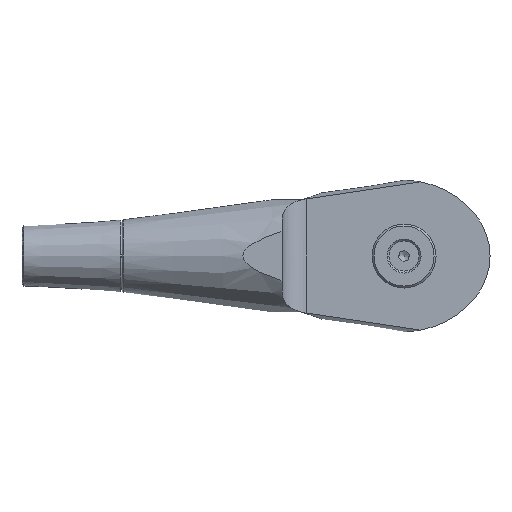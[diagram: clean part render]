
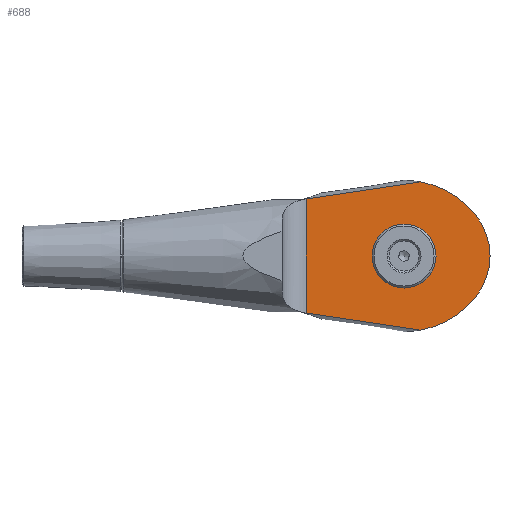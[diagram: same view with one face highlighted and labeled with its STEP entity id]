
A CAD part, front view. The second image highlights one B-rep face of the part: STEP entity #688.
In plain terms, the highlighted planar face has unit normal (0, -1, 0).
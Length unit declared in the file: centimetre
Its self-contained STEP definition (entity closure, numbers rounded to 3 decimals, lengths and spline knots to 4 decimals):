
#22=LINE('',#1201,#42);
#42=VECTOR('',#896,2.8507);
#65=(
BOUNDED_CURVE()
B_SPLINE_CURVE(2,(#1058,#1059,#1060),.UNSPECIFIED.,.F.,.F.)
B_SPLINE_CURVE_WITH_KNOTS((3,3),(0.,3.0994),.UNSPECIFIED.)
CURVE()
GEOMETRIC_REPRESENTATION_ITEM()
RATIONAL_B_SPLINE_CURVE((1.,1.011,1.008))
REPRESENTATION_ITEM('')
);
#69=(
BOUNDED_CURVE()
B_SPLINE_CURVE(2,(#1152,#1153,#1154),.UNSPECIFIED.,.F.,.F.)
B_SPLINE_CURVE_WITH_KNOTS((3,3),(1.5512,4.6506),
 .UNSPECIFIED.)
CURVE()
GEOMETRIC_REPRESENTATION_ITEM()
RATIONAL_B_SPLINE_CURVE((1.008,1.011,1.))
REPRESENTATION_ITEM('')
);
#98=PLANE('',#761);
#122=FACE_BOUND('',#218,.T.);
#159=FACE_OUTER_BOUND('',#217,.T.);
#217=EDGE_LOOP('',(#512,#513,#514,#515,#516,#517));
#218=EDGE_LOOP('',(#518));
#281=CIRCLE('',#750,0.675);
#284=CIRCLE('',#754,2.2895);
#285=CIRCLE('',#756,2.2895);
#287=CIRCLE('',#759,1.65);
#319=VERTEX_POINT('',#1042);
#320=VERTEX_POINT('',#1057);
#331=VERTEX_POINT('',#1140);
#332=VERTEX_POINT('',#1151);
#334=VERTEX_POINT('',#1181);
#337=VERTEX_POINT('',#1188);
#338=VERTEX_POINT('',#1192);
#382=EDGE_CURVE('',#319,#320,#65,.T.);
#394=EDGE_CURVE('',#331,#332,#69,.T.);
#401=EDGE_CURVE('',#334,#334,#281,.T.);
#405=EDGE_CURVE('',#331,#337,#284,.T.);
#406=EDGE_CURVE('',#338,#320,#285,.T.);
#409=EDGE_CURVE('',#337,#338,#287,.T.);
#411=EDGE_CURVE('',#319,#332,#22,.T.);
#512=ORIENTED_EDGE('',*,*,#405,.T.);
#513=ORIENTED_EDGE('',*,*,#409,.T.);
#514=ORIENTED_EDGE('',*,*,#406,.T.);
#515=ORIENTED_EDGE('',*,*,#382,.F.);
#516=ORIENTED_EDGE('',*,*,#411,.T.);
#517=ORIENTED_EDGE('',*,*,#394,.F.);
#518=ORIENTED_EDGE('',*,*,#401,.T.);
#688=ADVANCED_FACE('',(#159,#122),#98,.F.);
#750=AXIS2_PLACEMENT_3D('',#1182,#870,#871);
#754=AXIS2_PLACEMENT_3D('',#1190,#879,#880);
#756=AXIS2_PLACEMENT_3D('',#1193,#883,#884);
#759=AXIS2_PLACEMENT_3D('',#1198,#890,#891);
#761=AXIS2_PLACEMENT_3D('',#1200,#894,#895);
#870=DIRECTION('center_axis',(0.,1.,0.));
#871=DIRECTION('ref_axis',(-1.,0.,0.));
#879=DIRECTION('center_axis',(0.,-1.,0.));
#880=DIRECTION('ref_axis',(0.,0.,
-1.));
#883=DIRECTION('center_axis',(0.,-1.,0.));
#884=DIRECTION('ref_axis',(0.782,0.,0.623));
#890=DIRECTION('center_axis',(0.,-1.,0.));
#891=DIRECTION('ref_axis',(0.782,0.,-0.623));
#894=DIRECTION('center_axis',(0.,1.,0.));
#895=DIRECTION('ref_axis',(-1.,0.,0.));
#896=DIRECTION('',(0.,0.,-1.));
#1042=CARTESIAN_POINT('',(-2.45,-0.6,1.4254));
#1057=CARTESIAN_POINT('',(0.4102,-0.6,1.8538));
#1058=CARTESIAN_POINT('Ctrl Pts',(-2.45,-0.6,1.4254));
#1059=CARTESIAN_POINT('Ctrl Pts',(-1.2068,-0.6,1.6149));
#1060=CARTESIAN_POINT('Ctrl Pts',(0.4102,-0.6,1.8538));
#1140=CARTESIAN_POINT('',(0.4102,-0.6,-1.8538));
#1151=CARTESIAN_POINT('',(-2.45,-0.6,-1.4254));
#1152=CARTESIAN_POINT('Ctrl Pts',(0.4102,-0.6,-1.8538));
#1153=CARTESIAN_POINT('Ctrl Pts',(-1.2068,-0.6,-1.6149));
#1154=CARTESIAN_POINT('Ctrl Pts',(-2.45,-0.6,-1.4254));
#1181=CARTESIAN_POINT('',(0.675,-0.6,0.));
#1182=CARTESIAN_POINT('Origin',(0.,-0.6,0.));
#1188=CARTESIAN_POINT('',(1.7901,-0.6,-1.0287));
#1190=CARTESIAN_POINT('Origin',(0.,-0.6,0.3987));
#1192=CARTESIAN_POINT('',(1.7901,-0.6,1.0287));
#1193=CARTESIAN_POINT('Origin',(0.,-0.6,-0.3987));
#1198=CARTESIAN_POINT('Origin',(0.5,-0.6,0.));
#1200=CARTESIAN_POINT('Origin',(2.15,-0.6,0.));
#1201=CARTESIAN_POINT('',(-2.45,-0.6,0.));
